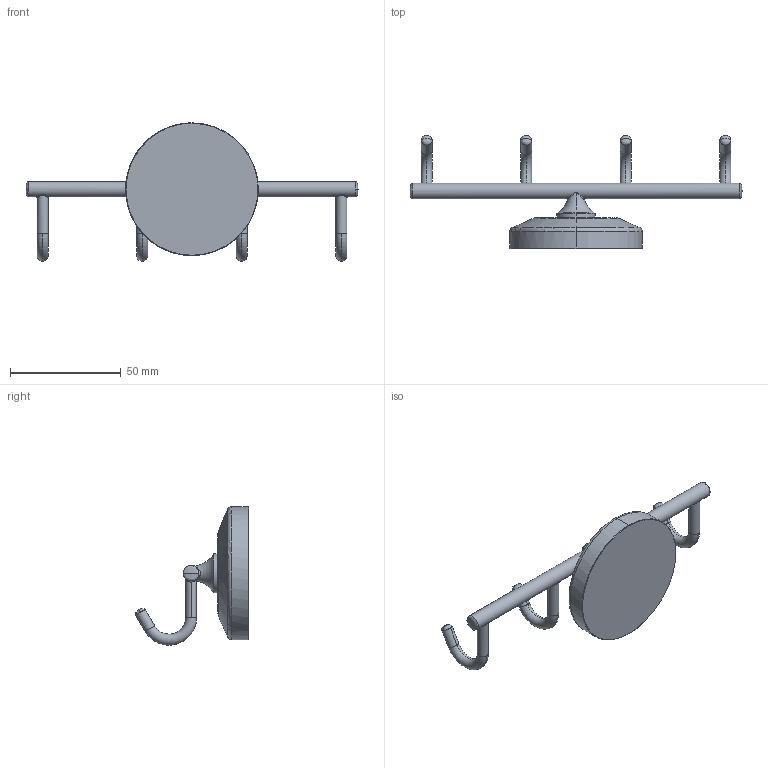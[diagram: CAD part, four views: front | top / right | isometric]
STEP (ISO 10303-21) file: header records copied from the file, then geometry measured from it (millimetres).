
FILE_DESCRIPTION(('THIS FILE CONTAINS SOME STEP INSTANCES'),'1');
FILE_NAME('sta_004.stp','2015-11-26T15:44:06',('UNDEFINED'),('UNDEFINED'),'T-FLEX CAD STEP converter','T-FLEX CAD','');
FILE_SCHEMA(('CONFIG_CONTROL_DESIGN'));
Length unit declared in the file: metre
Products named in the file (1): 3D 鐨飹懤艜_3
Bounding box: 150 x 51.19 x 62.49 mm (x, y, z)
Volume: 45816.4 mm3; surface area: 14191.3 mm2
Topology: 1 solids, 1 shells, 74 faces, 185 edges, 115 vertices
Faces by surface type: cylinder 22, bspline 22, torus 14, cone 8, plane 8
Entity records: 10818 total; most frequent: CARTESIAN_POINT 9505, ORIENTED_EDGE 370, EDGE_CURVE 185, DIRECTION 140, VERTEX_POINT 115, B_SPLINE_CURVE_WITH_KNOTS 84, EDGE_LOOP 76, ADVANCED_FACE 74
